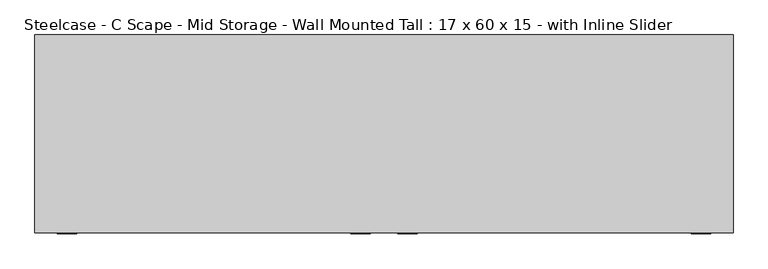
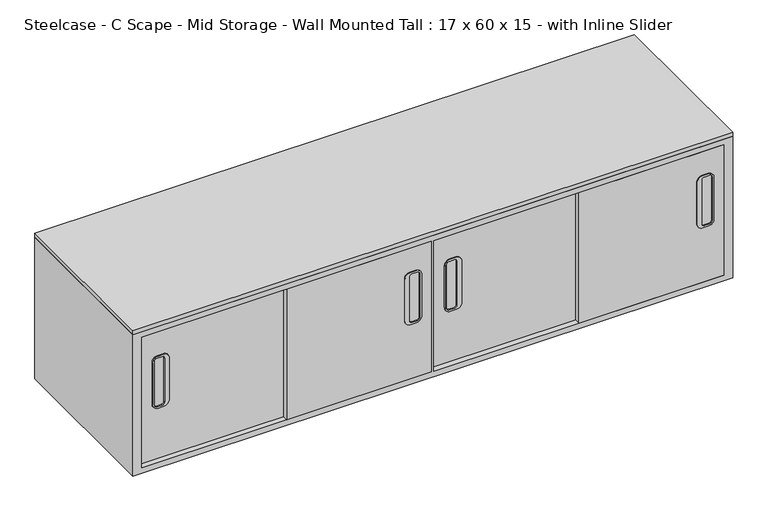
"""IFC4 building model written with IfcOpenShell, lengths in millimetres: furniture geometry, Steelcase - C Scape - Mid Storage - Wall Mounted Tall : 17 x 60 x 15 - with Inline Slider."""

from ifc_helpers import new_model, si_unit, point, frame, frame_2d, origin, place, context, project, spatial, polyline, circle_curve, trimmed, segment, composite_curve, outline, extrude, faceted_brep, source, transform, mapped, element, save


def steelcase_c_scape_mid_storage_wall_mounted_tall_17_x_60_x_15_50d56403(model_context):
    return source(origin(), model_context, "Body", "SolidModel", [
        extrude(outline(polyline([(1524.0, 215.9), (1524.0, -215.9), (0.0, -215.9), (0.0, 215.9), (1524.0, 215.9)])), frame((0.0, 0.0, 1219.2), z_axis=(0.0, 0.0, 1.0), x_axis=(1.0, 0.0, 0.0)), (0.0, 0.0, 1.0), 10.16),
        extrude(outline(composite_curve([segment(trimmed(circle_curve(frame_2d((1127.3282327, 1461.6177615)), 13.716), [point((1127.3282327, 1475.3337615))], [point((1141.0442327, 1461.6177615))], False, "CARTESIAN"), True, "CONTINUOUS"), segment(polyline([(1141.0442327, 1461.6177615), (1141.0442327, 1446.6701355)]), True, "CONTINUOUS"), segment(trimmed(circle_curve(frame_2d((1127.4168582, 1446.6701355)), 13.6273746), [point((1141.0442327, 1446.6701355))], [point((1127.4168582, 1433.0427609))], False, "CARTESIAN"), True, "CONTINUOUS"), segment(polyline([(1127.4168582, 1433.0427609), (1015.0601843, 1433.0427609)]), True, "CONTINUOUS"), segment(trimmed(circle_curve(frame_2d((1015.0601843, 1446.7587609)), 13.716), [point((1015.0601843, 1433.0427609))], [point((1001.3441843, 1446.7587609))], False, "CARTESIAN"), True, "CONTINUOUS"), segment(polyline([(1001.3441843, 1446.7587609), (1001.3441843, 1461.6177615)]), True, "CONTINUOUS"), segment(trimmed(circle_curve(frame_2d((1015.0601843, 1461.6177615)), 13.716), [point((1001.3441843, 1461.6177615))], [point((1015.0601843, 1475.3337615))], False, "CARTESIAN"), True, "CONTINUOUS"), segment(polyline([(1015.0601843, 1475.3337615), (1127.3282327, 1475.3337615)]), True, "CONTINUOUS")], self_intersect=False), holes=[composite_curve([segment(trimmed(circle_curve(frame_2d((1012.5201979, 1464.1577615)), 6.35), [point((1012.5201979, 1470.5077615))], [point((1006.1701979, 1464.1577615))], True, "CARTESIAN"), True, "CONTINUOUS"), segment(polyline([(1006.1701979, 1464.1577615), (1006.1701979, 1451.4577676)]), True, "CONTINUOUS"), segment(trimmed(circle_curve(frame_2d((1012.5201979, 1451.4577676)), 6.35), [point((1006.1701979, 1451.4577676))], [point((1012.5201979, 1445.1077676))], True, "CARTESIAN"), True, "CONTINUOUS"), segment(polyline([(1012.5201979, 1445.1077676), (1129.8682192, 1445.1077676)]), True, "CONTINUOUS"), segment(trimmed(circle_curve(frame_2d((1129.8682192, 1451.4577676)), 6.35), [point((1129.8682192, 1445.1077676))], [point((1136.2182192, 1451.4577676))], True, "CARTESIAN"), True, "CONTINUOUS"), segment(polyline([(1136.2182192, 1451.4577676), (1136.2182192, 1464.1577615)]), True, "CONTINUOUS"), segment(trimmed(circle_curve(frame_2d((1129.8682192, 1464.1577615)), 6.35), [point((1136.2182192, 1464.1577615))], [point((1129.8682192, 1470.5077615))], True, "CARTESIAN"), True, "CONTINUOUS"), segment(polyline([(1129.8682192, 1470.5077615), (1012.5201979, 1470.5077615)]), True, "CONTINUOUS")], self_intersect=False)]), frame((0.0, -218.44, 0.0), z_axis=(0.0, 1.0, 0.0), x_axis=(0.0, 0.0, 1.0)), (0.0, 0.0, 1.0), 2.54),
        extrude(outline(composite_curve([segment(polyline([(1127.3282327, 791.7432385), (1015.0601843, 791.7432385)]), True, "CONTINUOUS"), segment(trimmed(circle_curve(frame_2d((1015.0601843, 805.4592385)), 13.716), [point((1015.0601843, 791.7432385))], [point((1001.3441843, 805.4592385))], False, "CARTESIAN"), True, "CONTINUOUS"), segment(polyline([(1001.3441843, 805.4592385), (1001.3441843, 820.3182391)]), True, "CONTINUOUS"), segment(trimmed(circle_curve(frame_2d((1015.0601843, 820.3182391)), 13.716), [point((1001.3441843, 820.3182391))], [point((1015.0601843, 834.0342391))], False, "CARTESIAN"), True, "CONTINUOUS"), segment(polyline([(1015.0601843, 834.0342391), (1127.4168582, 834.0342391)]), True, "CONTINUOUS"), segment(trimmed(circle_curve(frame_2d((1127.4168582, 820.4068645)), 13.6273746), [point((1127.4168582, 834.0342391))], [point((1141.0442327, 820.4068645))], False, "CARTESIAN"), True, "CONTINUOUS"), segment(polyline([(1141.0442327, 820.4068645), (1141.0442327, 805.4592385)]), True, "CONTINUOUS"), segment(trimmed(circle_curve(frame_2d((1127.3282327, 805.4592385)), 13.716), [point((1141.0442327, 805.4592385))], [point((1127.3282327, 791.7432385))], False, "CARTESIAN"), True, "CONTINUOUS")], self_intersect=False), holes=[composite_curve([segment(polyline([(1012.5201979, 796.5692385), (1129.8682192, 796.5692385)]), True, "CONTINUOUS"), segment(trimmed(circle_curve(frame_2d((1129.8682192, 802.9192385)), 6.35), [point((1129.8682192, 796.5692385))], [point((1136.2182192, 802.9192385))], True, "CARTESIAN"), True, "CONTINUOUS"), segment(polyline([(1136.2182192, 802.9192385), (1136.2182192, 815.6192324)]), True, "CONTINUOUS"), segment(trimmed(circle_curve(frame_2d((1129.8682192, 815.6192324)), 6.35), [point((1136.2182192, 815.6192324))], [point((1129.8682192, 821.9692324))], True, "CARTESIAN"), True, "CONTINUOUS"), segment(polyline([(1129.8682192, 821.9692324), (1012.5201979, 821.9692324)]), True, "CONTINUOUS"), segment(trimmed(circle_curve(frame_2d((1012.5201979, 815.6192324)), 6.35), [point((1012.5201979, 821.9692324))], [point((1006.1701979, 815.6192324))], True, "CARTESIAN"), True, "CONTINUOUS"), segment(polyline([(1006.1701979, 815.6192324), (1006.1701979, 802.9192385)]), True, "CONTINUOUS"), segment(trimmed(circle_curve(frame_2d((1012.5201979, 802.9192385)), 6.35), [point((1006.1701979, 802.9192385))], [point((1012.5201979, 796.5692385))], True, "CARTESIAN"), True, "CONTINUOUS")], self_intersect=False)]), frame((0.0, -218.44, 0.0), z_axis=(0.0, 1.0, 0.0), x_axis=(0.0, 0.0, 1.0)), (0.0, 0.0, 1.0), 2.54),
        extrude(outline(composite_curve([segment(trimmed(circle_curve(frame_2d((1127.3282327, 718.5407615)), 13.716), [point((1127.3282327, 732.2567615))], [point((1141.0442327, 718.5407615))], False, "CARTESIAN"), True, "CONTINUOUS"), segment(polyline([(1141.0442327, 718.5407615), (1141.0442327, 703.5931355)]), True, "CONTINUOUS"), segment(trimmed(circle_curve(frame_2d((1127.4168582, 703.5931355)), 13.6273746), [point((1141.0442327, 703.5931355))], [point((1127.4168582, 689.9657609))], False, "CARTESIAN"), True, "CONTINUOUS"), segment(polyline([(1127.4168582, 689.9657609), (1015.0601843, 689.9657609)]), True, "CONTINUOUS"), segment(trimmed(circle_curve(frame_2d((1015.0601843, 703.6817609)), 13.716), [point((1015.0601843, 689.9657609))], [point((1001.3441843, 703.6817609))], False, "CARTESIAN"), True, "CONTINUOUS"), segment(polyline([(1001.3441843, 703.6817609), (1001.3441843, 718.5407615)]), True, "CONTINUOUS"), segment(trimmed(circle_curve(frame_2d((1015.0601843, 718.5407615)), 13.716), [point((1001.3441843, 718.5407615))], [point((1015.0601843, 732.2567615))], False, "CARTESIAN"), True, "CONTINUOUS"), segment(polyline([(1015.0601843, 732.2567615), (1127.3282327, 732.2567615)]), True, "CONTINUOUS")], self_intersect=False), holes=[composite_curve([segment(trimmed(circle_curve(frame_2d((1012.5201979, 721.0807615)), 6.35), [point((1012.5201979, 727.4307615))], [point((1006.1701979, 721.0807615))], True, "CARTESIAN"), True, "CONTINUOUS"), segment(polyline([(1006.1701979, 721.0807615), (1006.1701979, 708.3807676)]), True, "CONTINUOUS"), segment(trimmed(circle_curve(frame_2d((1012.5201979, 708.3807676)), 6.35), [point((1006.1701979, 708.3807676))], [point((1012.5201979, 702.0307676))], True, "CARTESIAN"), True, "CONTINUOUS"), segment(polyline([(1012.5201979, 702.0307676), (1129.8682192, 702.0307676)]), True, "CONTINUOUS"), segment(trimmed(circle_curve(frame_2d((1129.8682192, 708.3807676)), 6.35), [point((1129.8682192, 702.0307676))], [point((1136.2182192, 708.3807676))], True, "CARTESIAN"), True, "CONTINUOUS"), segment(polyline([(1136.2182192, 708.3807676), (1136.2182192, 721.0807615)]), True, "CONTINUOUS"), segment(trimmed(circle_curve(frame_2d((1129.8682192, 721.0807615)), 6.35), [point((1136.2182192, 721.0807615))], [point((1129.8682192, 727.4307615))], True, "CARTESIAN"), True, "CONTINUOUS"), segment(polyline([(1129.8682192, 727.4307615), (1012.5201979, 727.4307615)]), True, "CONTINUOUS")], self_intersect=False)]), frame((0.0, -218.44, 0.0), z_axis=(0.0, 1.0, 0.0), x_axis=(0.0, 0.0, 1.0)), (0.0, 0.0, 1.0), 2.54),
        extrude(outline(composite_curve([segment(polyline([(1127.3282327, 48.5394019), (1015.0601843, 48.5394019)]), True, "CONTINUOUS"), segment(trimmed(circle_curve(frame_2d((1015.0601843, 62.2554019)), 13.716), [point((1015.0601843, 48.5394019))], [point((1001.3441843, 62.2554019))], False, "CARTESIAN"), True, "CONTINUOUS"), segment(polyline([(1001.3441843, 62.2554019), (1001.3441843, 77.1144024)]), True, "CONTINUOUS"), segment(trimmed(circle_curve(frame_2d((1015.0601843, 77.1144024)), 13.716), [point((1001.3441843, 77.1144024))], [point((1015.0601843, 90.8304024))], False, "CARTESIAN"), True, "CONTINUOUS"), segment(polyline([(1015.0601843, 90.8304024), (1127.4168582, 90.8304024)]), True, "CONTINUOUS"), segment(trimmed(circle_curve(frame_2d((1127.4168582, 77.2030278)), 13.6273746), [point((1127.4168582, 90.8304024))], [point((1141.0442327, 77.2030278))], False, "CARTESIAN"), True, "CONTINUOUS"), segment(polyline([(1141.0442327, 77.2030278), (1141.0442327, 62.2554019)]), True, "CONTINUOUS"), segment(trimmed(circle_curve(frame_2d((1127.3282327, 62.2554019)), 13.716), [point((1141.0442327, 62.2554019))], [point((1127.3282327, 48.5394019))], False, "CARTESIAN"), True, "CONTINUOUS")], self_intersect=False), holes=[composite_curve([segment(polyline([(1012.5201979, 53.3654018), (1129.8682192, 53.3654018)]), True, "CONTINUOUS"), segment(trimmed(circle_curve(frame_2d((1129.8682192, 59.7154018)), 6.35), [point((1129.8682192, 53.3654018))], [point((1136.2182192, 59.7154018))], True, "CARTESIAN"), True, "CONTINUOUS"), segment(polyline([(1136.2182192, 59.7154018), (1136.2182192, 72.4153957)]), True, "CONTINUOUS"), segment(trimmed(circle_curve(frame_2d((1129.8682192, 72.4153957)), 6.35), [point((1136.2182192, 72.4153957))], [point((1129.8682192, 78.7653957))], True, "CARTESIAN"), True, "CONTINUOUS"), segment(polyline([(1129.8682192, 78.7653957), (1012.5201979, 78.7653957)]), True, "CONTINUOUS"), segment(trimmed(circle_curve(frame_2d((1012.5201979, 72.4153957)), 6.35), [point((1012.5201979, 78.7653957))], [point((1006.1701979, 72.4153957))], True, "CARTESIAN"), True, "CONTINUOUS"), segment(polyline([(1006.1701979, 72.4153957), (1006.1701979, 59.7154018)]), True, "CONTINUOUS"), segment(trimmed(circle_curve(frame_2d((1012.5201979, 59.7154018)), 6.35), [point((1006.1701979, 59.7154018))], [point((1012.5201979, 53.3654018))], True, "CARTESIAN"), True, "CONTINUOUS")], self_intersect=False)]), frame((0.0, -218.44, 0.0), z_axis=(0.0, 1.0, 0.0), x_axis=(0.0, 0.0, 1.0)), (0.0, 0.0, 1.0), 2.54),
        extrude(outline(polyline([(390.3980817, -201.5235519), (21.9711633, -201.5235519), (21.9711633, -187.1471039), (390.3980817, -187.1471039), (390.3980817, -201.5235519)])), frame((0.0, 0.0, 853.4399855), z_axis=(0.0, 0.0, 1.0), x_axis=(1.0, 0.0, 0.0)), (0.0, 0.0, 1.0), 350.5200145),
        extrude(outline(polyline([(758.825, -215.9), (390.3980817, -215.9), (390.3980817, -201.5235519), (758.825, -201.5235519), (758.825, -215.9)])), frame((0.0, 0.0, 853.4399855), z_axis=(0.0, 0.0, 1.0), x_axis=(1.0, 0.0, 0.0)), (0.0, 0.0, 1.0), 350.5200145),
        extrude(outline(polyline([(1501.902, -215.9), (1133.5385, -215.9), (1133.5385, -201.5235519), (1501.902, -201.5235519), (1501.902, -215.9)])), frame((0.0, 0.0, 853.4399855), z_axis=(0.0, 0.0, 1.0), x_axis=(1.0, 0.0, 0.0)), (0.0, 0.0, 1.0), 350.5200145),
        extrude(outline(polyline([(1133.5385, -201.5235519), (765.175, -201.5235519), (765.175, -187.1471039), (1133.5385, -187.1471039), (1133.5385, -201.5235519)])), frame((0.0, 0.0, 853.4399855), z_axis=(0.0, 0.0, 1.0), x_axis=(1.0, 0.0, 0.0)), (0.0, 0.0, 1.0), 350.5200145),
        faceted_brep([(0.0, -215.9, 1219.2), (0.0, -215.9, 838.2), (1524.0, -215.9, 838.2), (1524.0, -215.9, 1219.2), (21.9711633, -215.9, 1203.96), (758.825, -215.9, 1203.96), (758.825, -215.9, 853.4399855), (21.9711633, -215.9, 853.4399855), (1501.902, -215.9, 1203.96), (1501.902, -215.9, 853.4399855), (765.175, -215.9, 853.4399855), (765.175, -215.9, 1203.96), (1524.0, 215.9, 1219.2), (1524.0, 215.9, 838.2), (0.0, 215.9, 838.2), (0.0, 215.9, 1219.2), (1501.902, 206.3755809, 1203.96), (1501.902, 206.3755809, 853.4399855), (758.825, 206.3755809, 853.4399855), (21.9711633, 206.3755809, 853.4399855), (765.175, 206.3755809, 853.4399855), (21.9711633, 206.3755809, 1203.96), (758.825, 206.3755809, 1203.96), (765.175, 206.3755809, 1203.96)], [[[0, 1, 2, 3], [4, 5, 6, 7], [8, 9, 10, 11]], [[12, 13, 14, 15]], [[0, 3, 12, 15]], [[1, 0, 15, 14]], [[2, 1, 14, 13]], [[3, 2, 13, 12]], [[9, 8, 16, 17]], [[7, 6, 18, 19]], [[10, 9, 17, 20]], [[4, 7, 19, 21]], [[5, 4, 21, 22]], [[8, 11, 23, 16]], [[18, 22, 21, 19]], [[6, 5, 22, 18]], [[11, 10, 20, 23]], [[23, 20, 17, 16]]]),
    ])


if __name__ == "__main__":
    model = new_model("IFC4")
    model_context = context("Model", 3, world=origin())
    ifc_project = project(units=[si_unit("LENGTHUNIT", "METRE", prefix="MILLI")], contexts=[model_context])
    site = spatial("IfcSite", under=ifc_project)
    building = spatial("IfcBuilding", under=site)
    placement = place(None, origin())
    steelcase_c_scape_mid_storage_wall_mounted_tall_17_x_60_x_15_shape = steelcase_c_scape_mid_storage_wall_mounted_tall_17_x_60_x_15_50d56403(model_context)
    element("IfcFurniture", 1, ObjectType="Steelcase - C Scape - Mid Storage - Wall Mounted Tall : 17 x 60 x 15 - with Inline Slider", at=placement, inside=building, context=model_context, shape_type="MappedRepresentation", body=[
        mapped(steelcase_c_scape_mid_storage_wall_mounted_tall_17_x_60_x_15_shape, transform((0.0, 0.0, 0.0), x_axis=(1.0, 0.0, 0.0), y_axis=(0.0, 1.0, 0.0), z_axis=(0.0, 0.0, 1.0))),
    ])
    save(model, "model.ifc")
